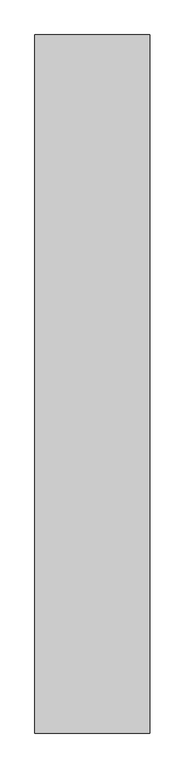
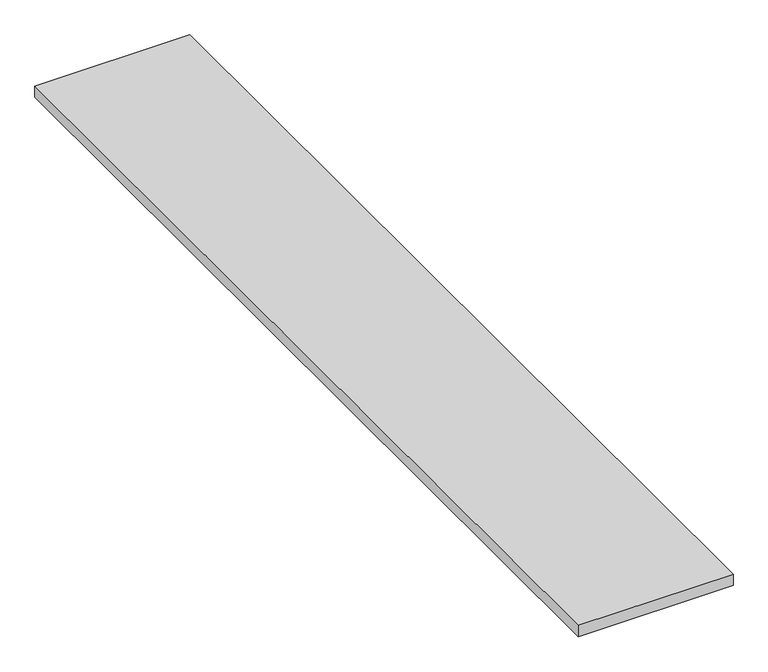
"""IFC4 building model written with IfcOpenShell, lengths in millimetres: furniture geometry, Rad timber cover : Rad timber cover."""

from ifc_helpers import new_model, si_unit, frame, origin, place, context, project, spatial, polyline, outline, extrude, source, transform, mapped, element, save


def furniture_87e55032(model_context):
    return source(origin(), model_context, "Body", "SweptSolid", [
        extrude(outline(polyline([(6426.7880673, 6871.9283586), (6426.7880673, 5291.9283586), (6166.7880673, 5291.9283586), (6166.7880673, 6871.9283586), (6426.7880673, 6871.9283586)])), frame((0.0, 0.0, 800.0), z_axis=(0.0, 0.0, 1.0), x_axis=(1.0, 0.0, 0.0)), (0.0, 0.0, 1.0), 20.0),
    ])


if __name__ == "__main__":
    model = new_model("IFC4")
    model_context = context("Model", 3, world=origin())
    ifc_project = project(units=[si_unit("LENGTHUNIT", "METRE", prefix="MILLI")], contexts=[model_context])
    site = spatial("IfcSite", under=ifc_project)
    building = spatial("IfcBuilding", under=site)
    placement = place(None, origin())
    furniture_shape = furniture_87e55032(model_context)
    element("IfcFurniture", 1, ObjectType="Rad timber cover : Rad timber cover", at=placement, inside=building, context=model_context, shape_type="MappedRepresentation", body=[
        mapped(furniture_shape, transform((0.0, 0.0, 0.0), x_axis=(1.0, 0.0, 0.0), y_axis=(0.0, 1.0, 0.0), z_axis=(0.0, 0.0, 1.0))),
    ])
    save(model, "model.ifc")
